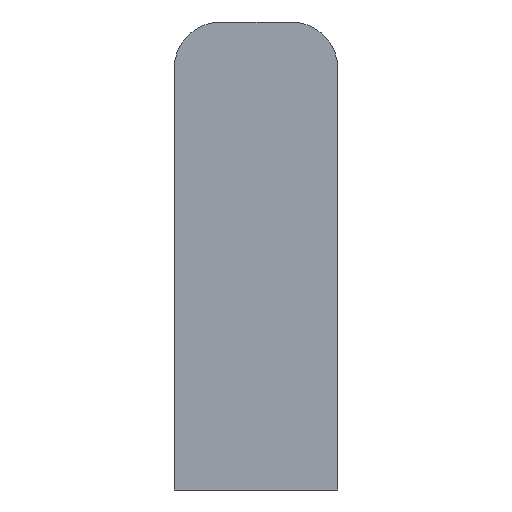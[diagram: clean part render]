
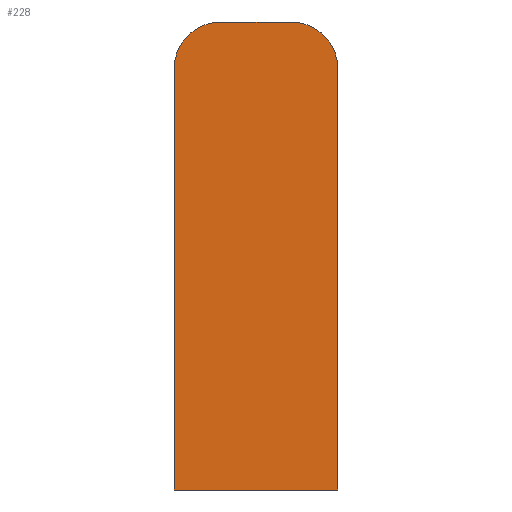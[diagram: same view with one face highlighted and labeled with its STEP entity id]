
A CAD part, front view. The second image highlights one B-rep face of the part: STEP entity #228.
In plain terms, the highlighted planar face has unit normal (0, -1, 0).
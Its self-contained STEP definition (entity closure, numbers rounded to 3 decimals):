
#12 = ORIENTED_EDGE ( 'NONE', *, *, #236, .T. ) ;
#25 = CIRCLE ( 'NONE', #261, 3. ) ;
#37 = VECTOR ( 'NONE', #169, 1000. ) ;
#43 = ORIENTED_EDGE ( 'NONE', *, *, #241, .T. ) ;
#47 = ORIENTED_EDGE ( 'NONE', *, *, #258, .T. ) ;
#50 = ORIENTED_EDGE ( 'NONE', *, *, #254, .T. ) ;
#51 = LINE ( 'NONE', #159, #57 ) ;
#57 = VECTOR ( 'NONE', #178, 1000. ) ;
#60 = CIRCLE ( 'NONE', #233, 3. ) ;
#66 = FACE_OUTER_BOUND ( 'NONE', #94, .T. ) ;
#68 = VECTOR ( 'NONE', #154, 1000. ) ;
#69 = LINE ( 'NONE', #152, #75 ) ;
#71 = LINE ( 'NONE', #149, #68 ) ;
#75 = VECTOR ( 'NONE', #153, 1000. ) ;
#77 = ORIENTED_EDGE ( 'NONE', *, *, #264, .T. ) ;
#85 = LINE ( 'NONE', #168, #37 ) ;
#94 = EDGE_LOOP ( 'NONE', ( #95, #43, #47, #77, #50, #12 ) ) ;
#95 = ORIENTED_EDGE ( 'NONE', *, *, #237, .T. ) ;
#100 = VERTEX_POINT ( 'NONE', #104 ) ;
#104 = CARTESIAN_POINT ( 'NONE',  ( 5.25, 0., -16.5 ) ) ;
#105 = VERTEX_POINT ( 'NONE', #112 ) ;
#106 = VERTEX_POINT ( 'NONE', #180 ) ;
#110 = VERTEX_POINT ( 'NONE', #111 ) ;
#111 = CARTESIAN_POINT ( 'NONE',  ( 2.25, 0., 13.5 ) ) ;
#112 = CARTESIAN_POINT ( 'NONE',  ( 5.25, 0., 10.5 ) ) ;
#117 = CARTESIAN_POINT ( 'NONE',  ( -5.25, 0., -16.5 ) ) ;
#118 = CARTESIAN_POINT ( 'NONE',  ( -5.25, 0., 10.5 ) ) ;
#137 = PLANE ( 'NONE',  #239 ) ;
#140 = CARTESIAN_POINT ( 'NONE',  ( 0., 0., -1.5 ) ) ;
#145 = DIRECTION ( 'NONE',  ( 0., 1., 0. ) ) ;
#146 = DIRECTION ( 'NONE',  ( -1., 0., 0. ) ) ;
#149 = CARTESIAN_POINT ( 'NONE',  ( 5.25, 0., -16.5 ) ) ;
#152 = CARTESIAN_POINT ( 'NONE',  ( 5.25, 0., -16.5 ) ) ;
#153 = DIRECTION ( 'NONE',  ( 1., 0., 0. ) ) ;
#154 = DIRECTION ( 'NONE',  ( 0., 0., 1. ) ) ;
#158 = CARTESIAN_POINT ( 'NONE',  ( 2.25, 0., 10.5 ) ) ;
#159 = CARTESIAN_POINT ( 'NONE',  ( 2.25, 0., 13.5 ) ) ;
#160 = DIRECTION ( 'NONE',  ( 0., -1., 0. ) ) ;
#161 = DIRECTION ( 'NONE',  ( -1., 0., 0. ) ) ;
#168 = CARTESIAN_POINT ( 'NONE',  ( -5.25, 0., -16.5 ) ) ;
#169 = DIRECTION ( 'NONE',  ( 0., 0., -1. ) ) ;
#178 = DIRECTION ( 'NONE',  ( -1., 0., 0. ) ) ;
#180 = CARTESIAN_POINT ( 'NONE',  ( -2.25, 0., 13.5 ) ) ;
#182 = CARTESIAN_POINT ( 'NONE',  ( -2.25, 0., 10.5 ) ) ;
#186 = DIRECTION ( 'NONE',  ( 0., -1., 0. ) ) ;
#188 = DIRECTION ( 'NONE',  ( -1., 0., 0. ) ) ;
#190 = VERTEX_POINT ( 'NONE', #117 ) ;
#196 = VERTEX_POINT ( 'NONE', #118 ) ;
#228 = ADVANCED_FACE ( 'NONE', ( #66 ), #137, .F. ) ;
#233 = AXIS2_PLACEMENT_3D ( 'NONE', #182, #186, #188 ) ;
#236 = EDGE_CURVE ( 'NONE', #190, #100, #69, .T. ) ;
#237 = EDGE_CURVE ( 'NONE', #100, #105, #71, .T. ) ;
#239 = AXIS2_PLACEMENT_3D ( 'NONE', #140, #145, #146 ) ;
#241 = EDGE_CURVE ( 'NONE', #105, #110, #25, .T. ) ;
#254 = EDGE_CURVE ( 'NONE', #196, #190, #85, .T. ) ;
#258 = EDGE_CURVE ( 'NONE', #110, #106, #51, .T. ) ;
#261 = AXIS2_PLACEMENT_3D ( 'NONE', #158, #160, #161 ) ;
#264 = EDGE_CURVE ( 'NONE', #106, #196, #60, .T. ) ;
